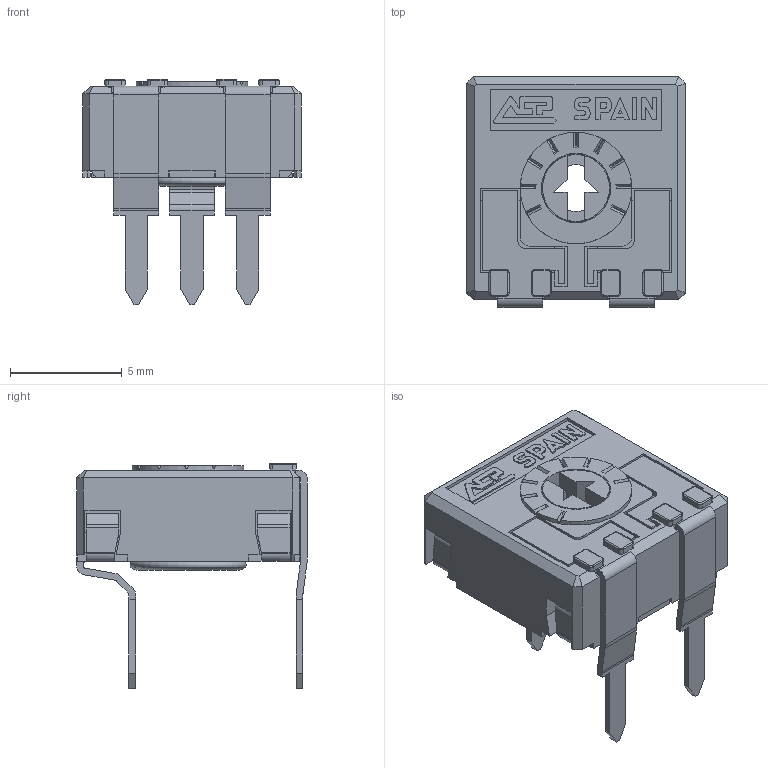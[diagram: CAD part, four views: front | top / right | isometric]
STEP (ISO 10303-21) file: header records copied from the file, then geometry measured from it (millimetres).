
FILE_DESCRIPTION(/* description */ (''),/* implementation_level */ '2;1');
FILE_NAME(/* name */ '\\SERVERACP\intercambio\Ignacio Santa Cecilia\Nueva WEB 2025\CA9 - CE9\CA9PV7,5.stp',/* time_stamp */ '2025-06-03T16:22:09+02:00',/* author */ ('CEM'),/* organization */ (''),/* preprocessor_version */ 'ST-DEVELOPER v17',/* originating_system */ 'Autodesk Inventor 2018',/* authorisation */ '');
FILE_SCHEMA (('AUTOMOTIVE_DESIGN { 1 0 10303 214 3 1 1 }'));
Length unit declared in the file: millimetre
Products named in the file (1): CA9PV7,5
Bounding box: 9.8 x 10.35 x 10.1 mm (x, y, z)
Volume: 250.6 mm3; surface area: 875.9 mm2
Topology: 2 solids, 2 shells, 632 faces, 1810 edges, 1163 vertices
Faces by surface type: plane 494, cylinder 103, torus 19, cone 16
Full cylindrical faces by diameter (mm): 3 x1, 3.1 x1, 4 x1, 4.8 x1, 5 x1
Entity records: 20678 total; most frequent: CARTESIAN_POINT 3658, ORIENTED_EDGE 3620, DIRECTION 3378, EDGE_CURVE 1810, LINE 1456, VECTOR 1456, VERTEX_POINT 1163, AXIS2_PLACEMENT_3D 961
